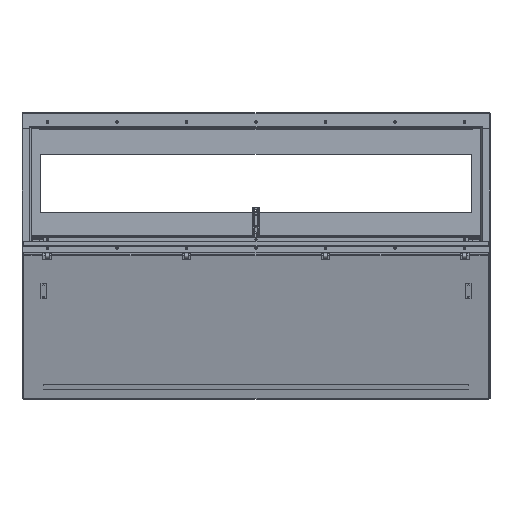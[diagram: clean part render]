
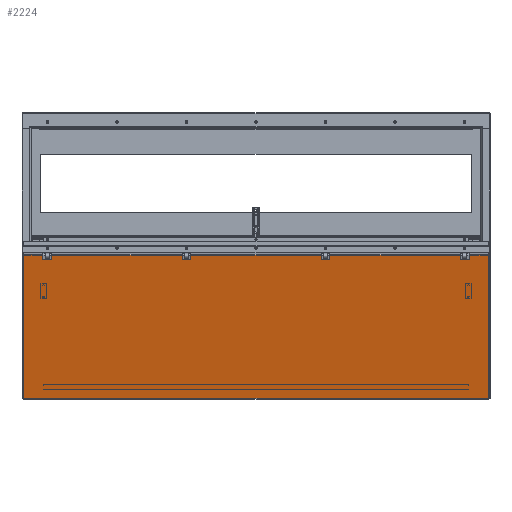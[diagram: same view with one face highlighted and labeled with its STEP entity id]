
A CAD part, top view. The second image highlights one B-rep face of the part: STEP entity #2224.
In plain terms, the highlighted planar face has unit normal (0, -0.208, 0.978) as drawn and (0, -1, 0) by its records, which use the part's own axes.
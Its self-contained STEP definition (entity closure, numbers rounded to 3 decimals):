
#2224 = ADVANCED_FACE( '', ( #3632 ), #3633, .T. );
#3632 = FACE_OUTER_BOUND( '', #5797, .T. );
#3633 = PLANE( '', #5798 );
#5797 = EDGE_LOOP( '', ( #10949, #10950, #10951, #10952, #10953, #10954, #10955, #10956, #10957, #10958, #10959, #10960, #10961, #10962, #10963, #10964, #10965, #10966, #10967, #10968 ) );
#5798 = AXIS2_PLACEMENT_3D( '', #10969, #10970, #10971 );
#10949 = ORIENTED_EDGE( '', *, *, #14107, .T. );
#10950 = ORIENTED_EDGE( '', *, *, #14108, .T. );
#10951 = ORIENTED_EDGE( '', *, *, #14109, .T. );
#10952 = ORIENTED_EDGE( '', *, *, #14110, .F. );
#10953 = ORIENTED_EDGE( '', *, *, #14111, .T. );
#10954 = ORIENTED_EDGE( '', *, *, #14112, .T. );
#10955 = ORIENTED_EDGE( '', *, *, #14113, .T. );
#10956 = ORIENTED_EDGE( '', *, *, #14114, .T. );
#10957 = ORIENTED_EDGE( '', *, *, #14115, .T. );
#10958 = ORIENTED_EDGE( '', *, *, #14116, .T. );
#10959 = ORIENTED_EDGE( '', *, *, #14117, .T. );
#10960 = ORIENTED_EDGE( '', *, *, #14118, .T. );
#10961 = ORIENTED_EDGE( '', *, *, #14119, .T. );
#10962 = ORIENTED_EDGE( '', *, *, #14120, .T. );
#10963 = ORIENTED_EDGE( '', *, *, #14121, .T. );
#10964 = ORIENTED_EDGE( '', *, *, #14122, .T. );
#10965 = ORIENTED_EDGE( '', *, *, #14123, .T. );
#10966 = ORIENTED_EDGE( '', *, *, #14124, .T. );
#10967 = ORIENTED_EDGE( '', *, *, #14125, .T. );
#10968 = ORIENTED_EDGE( '', *, *, #14126, .T. );
#10969 = CARTESIAN_POINT( '', ( -758.825, 0., -241.3 ) );
#10970 = DIRECTION( '', ( 0., -1., 0. ) );
#10971 = DIRECTION( '', ( 0., 0., -1. ) );
#14107 = EDGE_CURVE( '', #16775, #16776, #16777, .T. );
#14108 = EDGE_CURVE( '', #16776, #16778, #16779, .T. );
#14109 = EDGE_CURVE( '', #16778, #16780, #16781, .T. );
#14110 = EDGE_CURVE( '', #16782, #16780, #16783, .T. );
#14111 = EDGE_CURVE( '', #16782, #16784, #16785, .T. );
#14112 = EDGE_CURVE( '', #16784, #16786, #16787, .T. );
#14113 = EDGE_CURVE( '', #16786, #16788, #16789, .T. );
#14114 = EDGE_CURVE( '', #16788, #16790, #16791, .T. );
#14115 = EDGE_CURVE( '', #16790, #16792, #16793, .T. );
#14116 = EDGE_CURVE( '', #16792, #16794, #16795, .T. );
#14117 = EDGE_CURVE( '', #16794, #16796, #16797, .T. );
#14118 = EDGE_CURVE( '', #16796, #16798, #16799, .T. );
#14119 = EDGE_CURVE( '', #16798, #16800, #16801, .T. );
#14120 = EDGE_CURVE( '', #16800, #16802, #16803, .T. );
#14121 = EDGE_CURVE( '', #16802, #16804, #16805, .T. );
#14122 = EDGE_CURVE( '', #16804, #16806, #16807, .T. );
#14123 = EDGE_CURVE( '', #16806, #16808, #16809, .T. );
#14124 = EDGE_CURVE( '', #16808, #16810, #16811, .T. );
#14125 = EDGE_CURVE( '', #16810, #16812, #16813, .T. );
#14126 = EDGE_CURVE( '', #16812, #16775, #16814, .T. );
#16775 = VERTEX_POINT( '', #20906 );
#16776 = VERTEX_POINT( '', #20907 );
#16777 = LINE( '', #20908, #20909 );
#16778 = VERTEX_POINT( '', #20910 );
#16779 = LINE( '', #20911, #20912 );
#16780 = VERTEX_POINT( '', #20913 );
#16781 = LINE( '', #20914, #20915 );
#16782 = VERTEX_POINT( '', #20916 );
#16783 = LINE( '', #20917, #20918 );
#16784 = VERTEX_POINT( '', #20919 );
#16785 = LINE( '', #20920, #20921 );
#16786 = VERTEX_POINT( '', #20922 );
#16787 = LINE( '', #20923, #20924 );
#16788 = VERTEX_POINT( '', #20925 );
#16789 = LINE( '', #20926, #20927 );
#16790 = VERTEX_POINT( '', #20928 );
#16791 = LINE( '', #20929, #20930 );
#16792 = VERTEX_POINT( '', #20931 );
#16793 = LINE( '', #20932, #20933 );
#16794 = VERTEX_POINT( '', #20934 );
#16795 = LINE( '', #20935, #20936 );
#16796 = VERTEX_POINT( '', #20937 );
#16797 = LINE( '', #20938, #20939 );
#16798 = VERTEX_POINT( '', #20940 );
#16799 = LINE( '', #20941, #20942 );
#16800 = VERTEX_POINT( '', #20943 );
#16801 = LINE( '', #20944, #20945 );
#16802 = VERTEX_POINT( '', #20946 );
#16803 = LINE( '', #20947, #20948 );
#16804 = VERTEX_POINT( '', #20949 );
#16805 = LINE( '', #20950, #20951 );
#16806 = VERTEX_POINT( '', #20952 );
#16807 = LINE( '', #20953, #20954 );
#16808 = VERTEX_POINT( '', #20955 );
#16809 = LINE( '', #20956, #20957 );
#16810 = VERTEX_POINT( '', #20958 );
#16811 = LINE( '', #20959, #20960 );
#16812 = VERTEX_POINT( '', #20961 );
#16813 = LINE( '', #20962, #20963 );
#16814 = LINE( '', #20964, #20965 );
#20906 = CARTESIAN_POINT( '', ( 689.458, 0., -227.013 ) );
#20907 = CARTESIAN_POINT( '', ( 689.458, 0., -238.557 ) );
#20908 = CARTESIAN_POINT( '', ( 689.458, 0., -241.3 ) );
#20909 = VECTOR( '', #24415, 1000. );
#20910 = CARTESIAN_POINT( '', ( 756.082, 0., -238.557 ) );
#20911 = CARTESIAN_POINT( '', ( -756.082, 0., -238.557 ) );
#20912 = VECTOR( '', #24416, 1000. );
#20913 = CARTESIAN_POINT( '', ( 756.082, 0., 238.557 ) );
#20914 = CARTESIAN_POINT( '', ( 756.082, 0., -238.557 ) );
#20915 = VECTOR( '', #24417, 1000. );
#20916 = CARTESIAN_POINT( '', ( -756.082, 0., 238.557 ) );
#20917 = CARTESIAN_POINT( '', ( -756.082, 0., 238.557 ) );
#20918 = VECTOR( '', #24418, 1000. );
#20919 = CARTESIAN_POINT( '', ( -756.082, 0., -238.557 ) );
#20920 = CARTESIAN_POINT( '', ( -756.082, 0., 238.557 ) );
#20921 = VECTOR( '', #24419, 1000. );
#20922 = CARTESIAN_POINT( '', ( -689.483, 0., -238.557 ) );
#20923 = CARTESIAN_POINT( '', ( -756.082, 0., -238.557 ) );
#20924 = VECTOR( '', #24420, 1000. );
#20925 = CARTESIAN_POINT( '', ( -689.483, 0., -227.013 ) );
#20926 = CARTESIAN_POINT( '', ( -689.483, 0., -241.3 ) );
#20927 = VECTOR( '', #24421, 1000. );
#20928 = CARTESIAN_POINT( '', ( -669.417, 0., -227.013 ) );
#20929 = CARTESIAN_POINT( '', ( -758.825, 0., -227.013 ) );
#20930 = VECTOR( '', #24422, 1000. );
#20931 = CARTESIAN_POINT( '', ( -669.417, 0., -238.557 ) );
#20932 = CARTESIAN_POINT( '', ( -669.417, 0., -241.3 ) );
#20933 = VECTOR( '', #24423, 1000. );
#20934 = CARTESIAN_POINT( '', ( -236.525, 0., -238.557 ) );
#20935 = CARTESIAN_POINT( '', ( -756.082, 0., -238.557 ) );
#20936 = VECTOR( '', #24424, 1000. );
#20937 = CARTESIAN_POINT( '', ( -236.525, 0., -227.013 ) );
#20938 = CARTESIAN_POINT( '', ( -236.525, 0., -241.3 ) );
#20939 = VECTOR( '', #24425, 1000. );
#20940 = CARTESIAN_POINT( '', ( -216.459, 0., -227.013 ) );
#20941 = CARTESIAN_POINT( '', ( -758.825, 0., -227.013 ) );
#20942 = VECTOR( '', #24426, 1000. );
#20943 = CARTESIAN_POINT( '', ( -216.459, 0., -238.557 ) );
#20944 = CARTESIAN_POINT( '', ( -216.459, 0., -241.3 ) );
#20945 = VECTOR( '', #24427, 1000. );
#20946 = CARTESIAN_POINT( '', ( 216.433, 0., -238.557 ) );
#20947 = CARTESIAN_POINT( '', ( -756.082, 0., -238.557 ) );
#20948 = VECTOR( '', #24428, 1000. );
#20949 = CARTESIAN_POINT( '', ( 216.433, 0., -227.013 ) );
#20950 = CARTESIAN_POINT( '', ( 216.433, 0., -241.3 ) );
#20951 = VECTOR( '', #24429, 1000. );
#20952 = CARTESIAN_POINT( '', ( 236.499, 0., -227.013 ) );
#20953 = CARTESIAN_POINT( '', ( -758.825, 0., -227.013 ) );
#20954 = VECTOR( '', #24430, 1000. );
#20955 = CARTESIAN_POINT( '', ( 236.499, 0., -238.557 ) );
#20956 = CARTESIAN_POINT( '', ( 236.499, 0., -241.3 ) );
#20957 = VECTOR( '', #24431, 1000. );
#20958 = CARTESIAN_POINT( '', ( 669.392, 0., -238.557 ) );
#20959 = CARTESIAN_POINT( '', ( -756.082, 0., -238.557 ) );
#20960 = VECTOR( '', #24432, 1000. );
#20961 = CARTESIAN_POINT( '', ( 669.392, 0., -227.013 ) );
#20962 = CARTESIAN_POINT( '', ( 669.392, 0., -241.3 ) );
#20963 = VECTOR( '', #24433, 1000. );
#20964 = CARTESIAN_POINT( '', ( -758.825, 0., -227.013 ) );
#20965 = VECTOR( '', #24434, 1000. );
#24415 = DIRECTION( '', ( 0., 0., -1. ) );
#24416 = DIRECTION( '', ( 1., 0., 0. ) );
#24417 = DIRECTION( '', ( 0., 0., 1. ) );
#24418 = DIRECTION( '', ( 1., 0., 0. ) );
#24419 = DIRECTION( '', ( 0., 0., -1. ) );
#24420 = DIRECTION( '', ( 1., 0., 0. ) );
#24421 = DIRECTION( '', ( 0., 0., 1. ) );
#24422 = DIRECTION( '', ( 1., 0., 0. ) );
#24423 = DIRECTION( '', ( 0., 0., -1. ) );
#24424 = DIRECTION( '', ( 1., 0., 0. ) );
#24425 = DIRECTION( '', ( 0., 0., 1. ) );
#24426 = DIRECTION( '', ( 1., 0., 0. ) );
#24427 = DIRECTION( '', ( 0., 0., -1. ) );
#24428 = DIRECTION( '', ( 1., 0., 0. ) );
#24429 = DIRECTION( '', ( 0., 0., 1. ) );
#24430 = DIRECTION( '', ( 1., 0., 0. ) );
#24431 = DIRECTION( '', ( 0., 0., -1. ) );
#24432 = DIRECTION( '', ( 1., 0., 0. ) );
#24433 = DIRECTION( '', ( 0., 0., 1. ) );
#24434 = DIRECTION( '', ( 1., 0., 0. ) );
